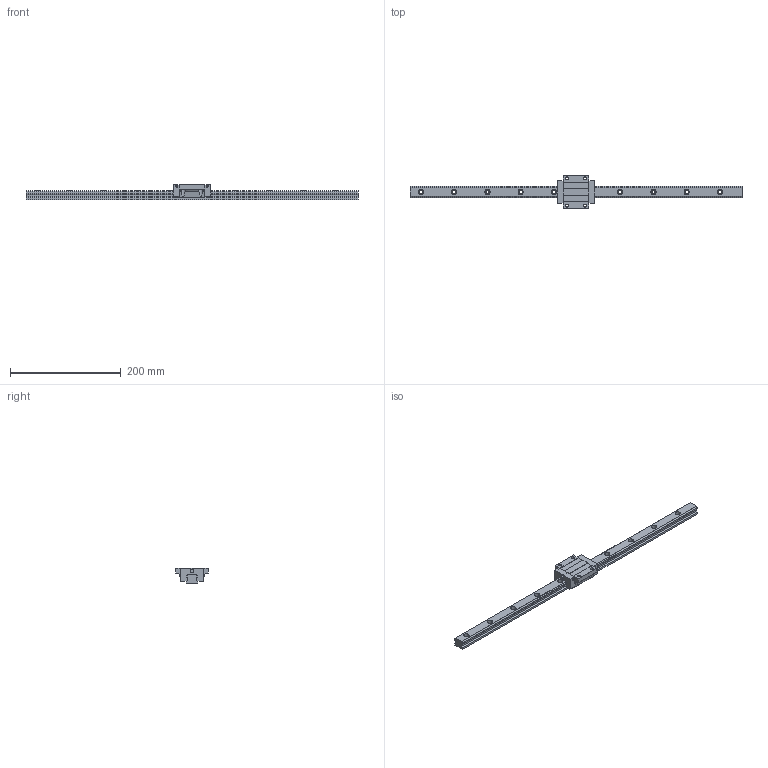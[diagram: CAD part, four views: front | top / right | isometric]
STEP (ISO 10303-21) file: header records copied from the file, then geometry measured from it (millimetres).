
FILE_DESCRIPTION (( 'STEP AP203' ), '1' );
FILE_NAME ('TRS20FN-XN.STEP', '2024-05-22T06:55:57', ( '' ), ( '' ), 'SwSTEP 2.0', 'SolidWorks 2022', '' );
FILE_SCHEMA (( 'CONFIG_CONTROL_DESIGN' ));
Length unit declared in the file: millimetre
Products named in the file (1): TRS20FN-XN
Bounding box: 600 x 59 x 28 mm (x, y, z)
Volume: 224177.2 mm3; surface area: 64168.5 mm2
Topology: 2 solids, 2 shells, 234 faces, 618 edges, 400 vertices
Faces by surface type: cylinder 124, plane 106, sphere 4
Entity records: 7573 total; most frequent: CARTESIAN_POINT 1509, DIRECTION 1284, ORIENTED_EDGE 1228, EDGE_CURVE 614, AXIS2_PLACEMENT_3D 459, VERTEX_POINT 400, LINE 366, VECTOR 366
